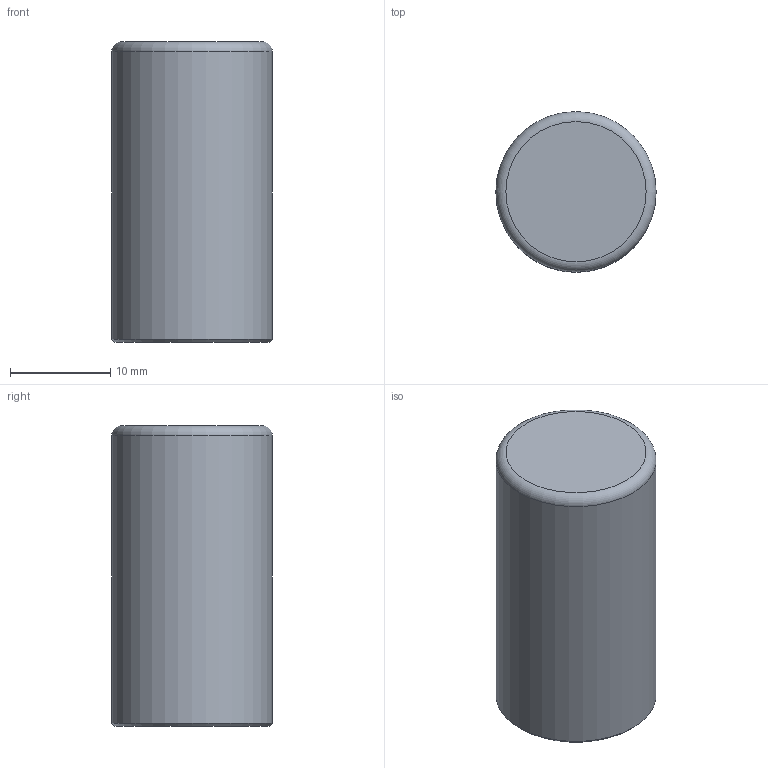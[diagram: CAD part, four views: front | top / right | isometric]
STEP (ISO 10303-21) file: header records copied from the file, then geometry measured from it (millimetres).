
FILE_DESCRIPTION(('Open CASCADE Model'),'2;1');
FILE_NAME('FL-PIN-S-knob-16','2026-10-19T21:24:09',('Author'),( 'Open CASCADE'),'Open CASCADE STEP processor 8.0','build123d', 'Unknown');
FILE_SCHEMA(('AUTOMOTIVE_DESIGN { 1 0 10303 214 1 1 1 1 }'));
Length unit declared in the file: millimetre
Products named in the file (2): FL-PIN-S-knob-16; brass_FL-PINS16__k
Assembly tree (1 placements, depth 2):
  FL-PIN-S-knob-16
    brass_FL-PINS16__k
Bounding box: 16 x 16 x 30 mm (x, y, z)
Volume: 5909.2 mm3; surface area: 2002 mm2
Topology: 1 solids, 1 shells, 9 faces, 13 edges, 8 vertices
Faces by surface type: plane 4, cylinder 3, cone 1, torus 1
Full cylindrical faces by diameter (mm): 3.3 x1, 5.1 x1, 16 x1
Entity records: 393 total; most frequent: DIRECTION 66, CARTESIAN_POINT 62, ORIENTED_EDGE 26, PCURVE 26, DEFINITIONAL_REPRESENTATION 26, AXIS2_PLACEMENT_3D 20, LINE 20, VECTOR 20
